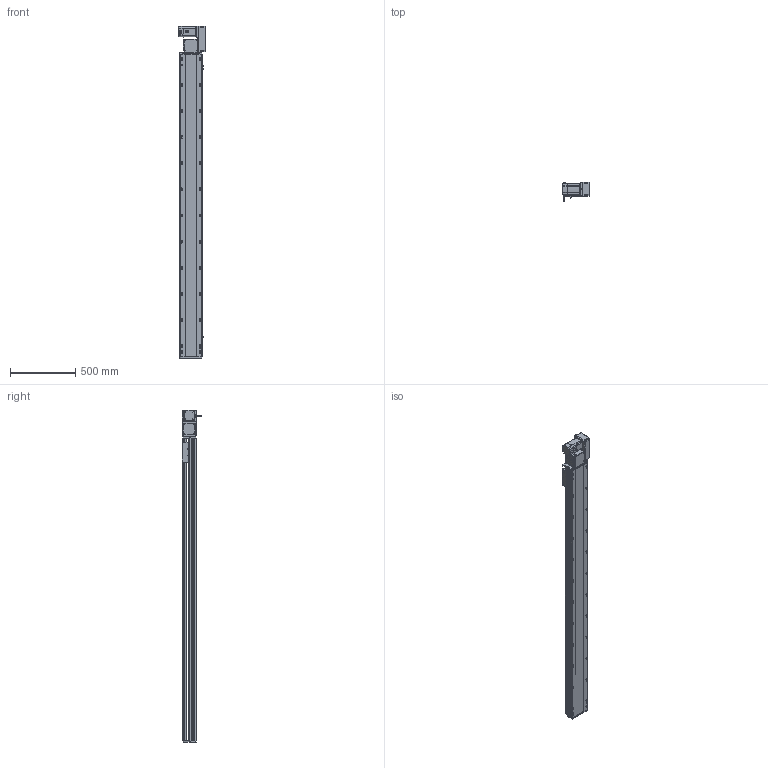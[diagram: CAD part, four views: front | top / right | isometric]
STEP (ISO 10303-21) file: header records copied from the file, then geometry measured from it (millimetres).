
FILE_DESCRIPTION (( 'STEP AP214' ), '1' );
FILE_NAME ('RTB17S-XX-2050-R-M75-C4.STEP', '2025-12-12T01:44:40', ( '' ), ( '' ), 'SwSTEP 2.0', 'SolidWorks 2018', '' );
FILE_SCHEMA (( 'AUTOMOTIVE_DESIGN' ));
Length unit declared in the file: millimetre
Products named in the file (15): RTB17S-L-007奻裔^RTB17S-XX-XX-R-M75-C4; RTB17S-賑釱^RTB17S-XX-XX-R-M75-C4; RTB22S-GY-008-M75--萇儂啣^RTB17S-R-々湍釱蚾饜-750W_RTB17S-XX-XX-R-M75-C4; 750W萇儂^RTB17S-XX-XX-R-M75-C4; RTB17S-L-004-賑釱^RTB17S-賑釱_RTB17S-XX-XX-R-M75-C4; EE672^RTB17S-XX-XX-R-M75-C4; RTB22S-GY-005P^RTB17S-R-々湍釱蚾饜-750W_RTB17S-XX-XX-R-M75-C4; RTB17S-L-014-T20-P75--々湍釱^RTB17S-R-々湍釱蚾饜-750W_RTB17S-XX-XX-R-M75-C4; RTB17S-XX-2050-R-M75-C4; RTH13-BL-012覜茼え俋离^RTB17S-賑釱_RTB17S-XX-XX-R-M75-C4; RTB17S-L-001-耜醱啣^RTB17S-XX-XX-R-M75-C4; RTB22S-GY-017P^RTB17S-R-々湍釱蚾饜-750W_RTB17S-XX-XX-R-M75-C4; RTB17S-R-々湍釱蚾饜-750W^RTB17S-XX-XX-R-M75-C4; RTB22S-GY-018P^RTB17S-R-々湍釱蚾饜-750W_RTB17S-XX-XX-R-M75-C4; RTB17-R-011菁釱^RTB17S-XX-XX-R-M75-C4
Assembly tree (17 placements, depth 3):
  RTB17S-XX-2050-R-M75-C4
    RTB17-R-011菁釱^RTB17S-XX-XX-R-M75-C4
    EE672^RTB17S-XX-XX-R-M75-C4  x3
    RTB17S-L-001-耜醱啣^RTB17S-XX-XX-R-M75-C4
    RTB17S-賑釱^RTB17S-XX-XX-R-M75-C4
      RTB17S-L-004-賑釱^RTB17S-賑釱_RTB17S-XX-XX-R-M75-C4
      RTH13-BL-012覜茼え俋离^RTB17S-賑釱_RTB17S-XX-XX-R-M75-C4
    RTB17S-L-007奻裔^RTB17S-XX-XX-R-M75-C4
    750W萇儂^RTB17S-XX-XX-R-M75-C4
    RTB17S-R-々湍釱蚾饜-750W^RTB17S-XX-XX-R-M75-C4
      RTB17S-L-014-T20-P75--々湍釱^RTB17S-R-々湍釱蚾饜-750W_RTB17S-XX-XX-R-M75-C4
      RTB22S-GY-005P^RTB17S-R-々湍釱蚾饜-750W_RTB17S-XX-XX-R-M75-C4
      RTB22S-GY-017P^RTB17S-R-々湍釱蚾饜-750W_RTB17S-XX-XX-R-M75-C4  x2
      RTB22S-GY-008-M75--萇儂啣^RTB17S-R-々湍釱蚾饜-750W_RTB17S-XX-XX-R-M75-C4
      RTB22S-GY-018P^RTB17S-R-々湍釱蚾饜-750W_RTB17S-XX-XX-R-M75-C4
Bounding box: 207.4 x 152.7 x 2549 mm (x, y, z)
Volume: 18759613.6 mm3; surface area: 3362463.4 mm2
Topology: 17 solids, 17 shells, 2185 faces, 6106 edges, 3950 vertices
Faces by surface type: plane 982, cylinder 787, bspline 294, cone 110, sphere 8, torus 4
Entity records: 62710 total; most frequent: CARTESIAN_POINT 18570, ORIENTED_EDGE 9056, DIRECTION 8402, EDGE_CURVE 4528, AXIS2_PLACEMENT_3D 2970, VERTEX_POINT 2954, LINE 2462, VECTOR 2462
